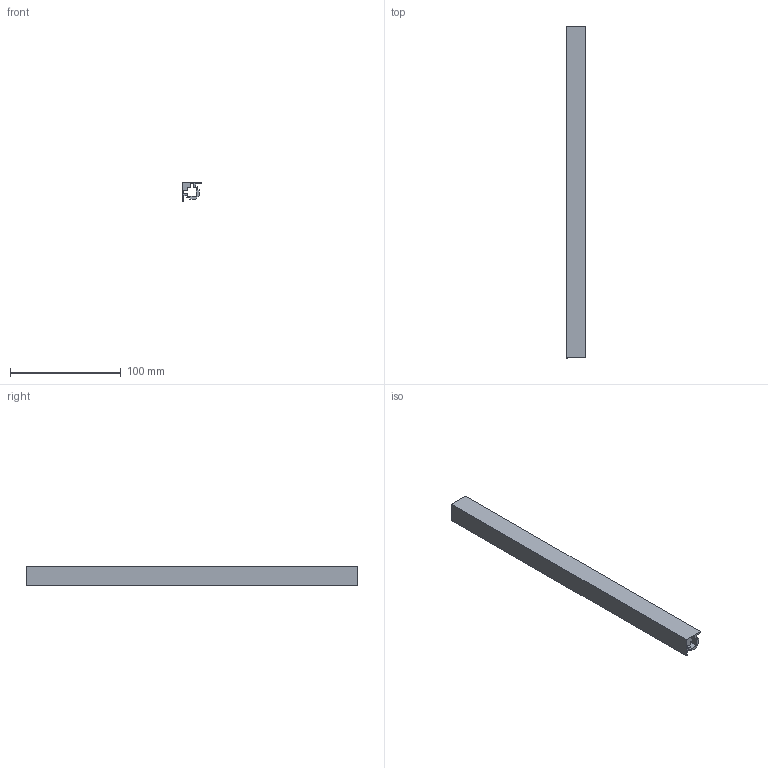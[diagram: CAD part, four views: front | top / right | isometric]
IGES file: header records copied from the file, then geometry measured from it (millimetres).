
Start section: Data from Parasolid IGES Translator 20.0.26, Copyright(c) 2006 Siemens P LM Software. All Rights Reserved.
Global section: file name: 9303912.igs; native system: By Siemens PLM Incorporated; preprocessor: XPlus GENERIC/IGES 20.0.26; author: Noname; organization: Noname; date: 20210826.155109; units: millimetre
Bounding box: 18 x 300 x 18 mm (x, y, z)
Surface area: 41117.5 mm2 (no closed solid volume)
Topology: 0 solids, 0 shells, 39 faces, 222 edges, 222 vertices
Faces by surface type: extrusion 39
